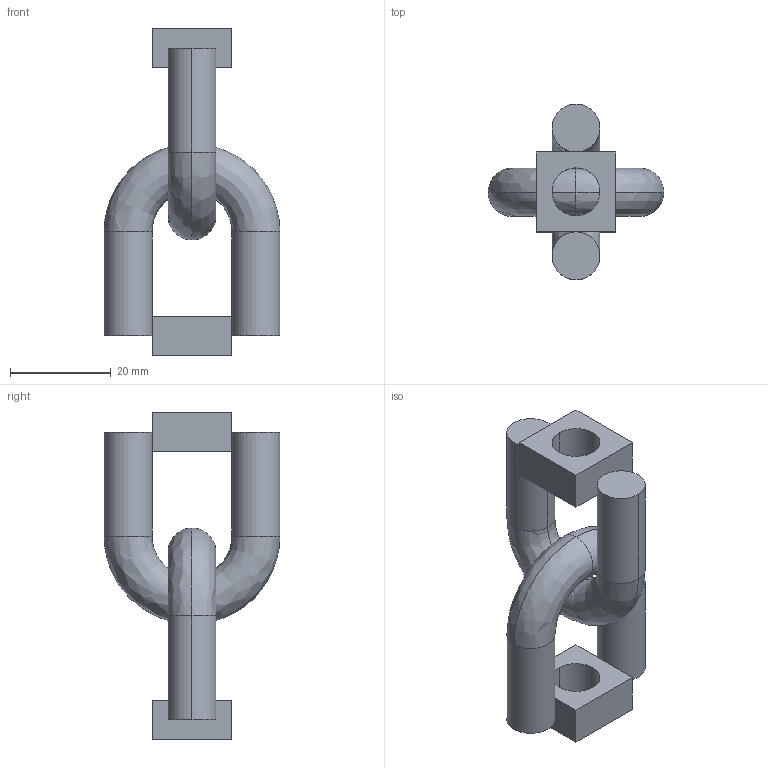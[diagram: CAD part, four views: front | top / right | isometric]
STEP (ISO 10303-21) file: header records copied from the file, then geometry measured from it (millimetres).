
FILE_DESCRIPTION(('TurboCAD Mac Pro'),'Build 980');
FILE_NAME('M2037.stp',' ',(''),(''),'ACIS Interop','IMSI','TurboCAD Mac Pro BY IMSI, INCORPORATED');
FILE_SCHEMA(('automotive_design'));
Length unit declared in the file: inch
Products named in the file (4): 1; 2; 3; 4
Bounding box: 34.92 x 34.92 x 64.95 mm (x, y, z)
Volume: 14356.9 mm3; surface area: 7312.6 mm2
Topology: 4 solids, 4 shells, 40 faces, 84 edges, 52 vertices
Faces by surface type: bspline 16, plane 16, cylinder 8
Entity records: 2041 total; most frequent: CARTESIAN_POINT 844, ORIENTED_EDGE 168, DIRECTION 136, EDGE_CURVE 84, VERTEX_POINT 52, AXIS2_PLACEMENT_3D 48, STYLED_ITEM 44, PRESENTATION_STYLE_ASSIGNMENT 44
